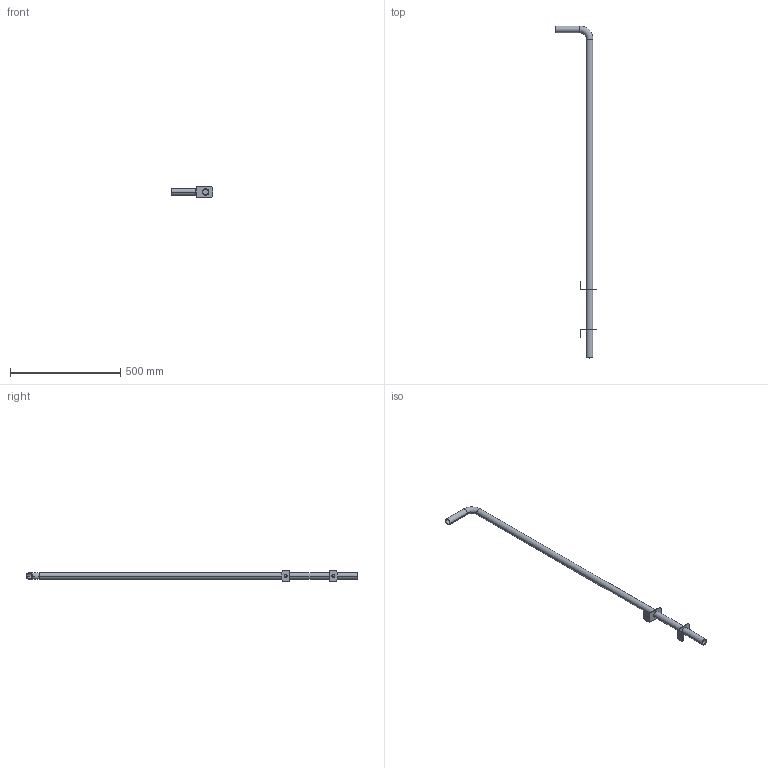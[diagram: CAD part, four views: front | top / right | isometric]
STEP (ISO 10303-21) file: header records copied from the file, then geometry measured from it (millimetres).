
FILE_DESCRIPTION((''),'2;1');
FILE_NAME('52332158','2024-12-18T11:33:03',('wep'),('HUBER SE'),'CREO PARAMETRIC BY PTC INC, 2022162','CREO PARAMETRIC BY PTC INC, 2022162','');
FILE_SCHEMA(('AUTOMOTIVE_DESIGN { 1 0 10303 214 1 1 1 1 }'));
Length unit declared in the file: millimetre
Products named in the file (1): 52332158
Bounding box: 187 x 1502.5 x 50 mm (x, y, z)
Volume: 370623.3 mm3; surface area: 301597.6 mm2
Topology: 1 solids, 2 shells, 54 faces, 124 edges, 80 vertices
Faces by surface type: cylinder 28, plane 22, torus 4
Entity records: 2063 total; most frequent: DIRECTION 292, CARTESIAN_POINT 260, ORIENTED_EDGE 248, EDGE_CURVE 124, AXIS2_PLACEMENT_3D 114, COLOUR_RGB 106, VERTEX_POINT 80, PROPERTY_DEFINITION 68
